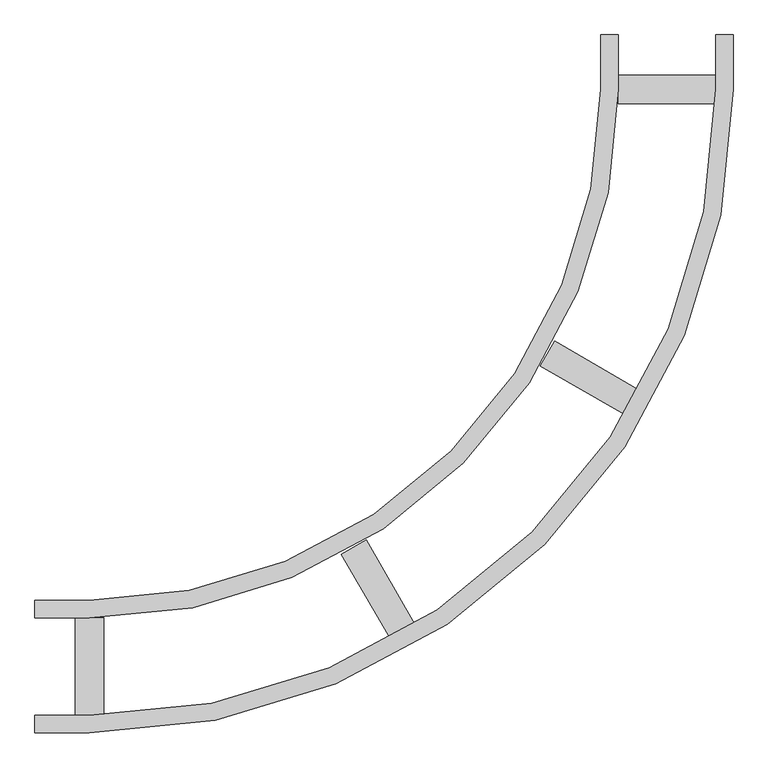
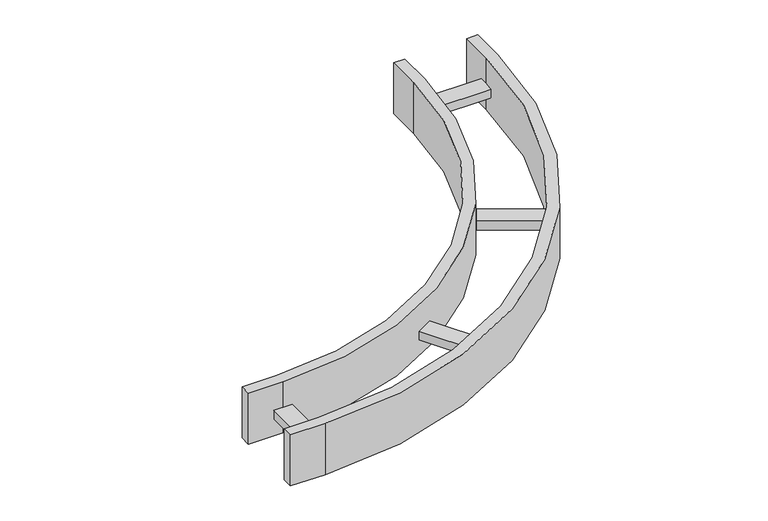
"""IFC4 building model written with IfcOpenShell, lengths in millimetres: cable carrier fitting geometry, Legrand_CableLadder_Swifts_Sapphire_FlatBend-13 : Hot Dip Galvanised (after manufacture)."""

import ifcopenshell
import ifcopenshell.guid

model = None  # the IFC model being written
_history = None  # IfcOwnerHistory: only IFC2X3 demands one
_inside = {}  # id of a spatial element -> (the spatial element, [elements in it])
_under = {}  # id of a project, library or spatial element -> (it, [spatial elements below it])
_declared = {}  # id of a project -> (the project, [libraries it declares])
_typed = {}  # id of a type object -> (the type object, [elements of that type])
_made_of = {}  # id of a material, layer set ... -> (it, [elements and type objects made of it])


def new_model(schema):
    """Start an empty IFC model of exactly this schema.

    Asked for "IFC4X3", IfcOpenShell would pick the latest addendum, in which some entities
    have other attributes; the version numbers below select the first issue.
    IFC2X3 requires an IfcOwnerHistory on every rooted entity: one is made here for all.
    """
    global model, _history
    if schema == "IFC4X3":
        model = ifcopenshell.file(schema_version=(4, 3, 0, 0))
    else:
        model = ifcopenshell.file(schema=schema)
    _inside.clear()
    _under.clear()
    _declared.clear()
    _typed.clear()
    _made_of.clear()
    _history = None
    if model.schema == "IFC2X3":
        org = make("IfcOrganization", Name="unknown")
        user = make(
            "IfcPersonAndOrganization",
            ThePerson=make("IfcPerson", FamilyName="unknown"),
            TheOrganization=org,
        )
        app = make(
            "IfcApplication",
            ApplicationDeveloper=org,
            Version="unknown",
            ApplicationFullName="unknown",
            ApplicationIdentifier="unknown",
        )
        _history = make(
            "IfcOwnerHistory",
            OwningUser=user,
            OwningApplication=app,
            ChangeAction="ADDED",
            CreationDate=0,
        )
    return model


def make(cls, **values):
    """One entity of the class cls with the attributes given. An attribute that is None is left unset."""
    return model.create_entity(
        cls, **{name: value for name, value in values.items() if value is not None}
    )


def rooted(cls, **values):
    """An entity with a GlobalId (a new one), such as an element, a storey or a relation."""
    return make(cls, GlobalId=ifcopenshell.guid.new(), OwnerHistory=_history, **values)


def si_unit(unit_type, name, prefix=None):
    """IfcSIUnit, for example si_unit("LENGTHUNIT", "METRE", prefix="MILLI")."""
    return make("IfcSIUnit", UnitType=unit_type, Prefix=prefix, Name=name)


def assignment(units):
    """IfcUnitAssignment: the units of a project."""
    return None if units is None else make("IfcUnitAssignment", Units=units)


def point(xyz):
    """IfcCartesianPoint."""
    return None if xyz is None else make("IfcCartesianPoint", Coordinates=xyz)


def direction(xyz):
    """IfcDirection."""
    return None if xyz is None else make("IfcDirection", DirectionRatios=xyz)


def frame(location, z_axis=None, x_axis=None):
    """IfcAxis2Placement3D, a coordinate frame: its origin and axes. An axis left out is left unset."""
    return make(
        "IfcAxis2Placement3D",
        Location=point(location),
        Axis=direction(z_axis),
        RefDirection=direction(x_axis),
    )


def frame_2d(location, x_axis=None):
    """IfcAxis2Placement2D, a coordinate frame in the plane: its origin and x axis."""
    return make(
        "IfcAxis2Placement2D", Location=point(location), RefDirection=direction(x_axis)
    )


def origin():
    """The frame at (0, 0, 0) with its axes left unset."""
    return frame((0.0, 0.0, 0.0))


def place(relative_to, where):
    """IfcLocalPlacement: puts the frame where relative to a parent placement (None: the world)."""
    return make(
        "IfcLocalPlacement", PlacementRelTo=relative_to, RelativePlacement=where
    )


def context(
    kind, dimensions, precision=None, world=None, true_north=None, identifier=None
):
    """IfcGeometricRepresentationContext, for example the 3D "Model" context."""
    return make(
        "IfcGeometricRepresentationContext",
        ContextIdentifier=identifier,
        ContextType=kind,
        CoordinateSpaceDimension=dimensions,
        Precision=precision,
        WorldCoordinateSystem=world,
        TrueNorth=true_north,
    )


def project(units=None, contexts=None):
    """IfcProject with its units and contexts."""
    return rooted(
        "IfcProject",
        Name="project",
        RepresentationContexts=contexts,
        UnitsInContext=assignment(units),
    )


def spatial(cls, under=None, at=None, **own):
    """A site, building, storey or space (cls), placed at a placement, below another one or the project."""
    s = rooted(cls, ObjectPlacement=at, **own)
    if under is not None:
        _under.setdefault(under.id(), (under, []))[1].append(s)
    return s


def polyline(points):
    """IfcPolyline through the points."""
    return make("IfcPolyline", Points=[point(p) for p in points])


def circle_curve(where, radius):
    """IfcCircle in the frame where."""
    return make("IfcCircle", Position=where, Radius=radius)


def trimmed(basis, trim1, trim2, sense, master):
    """IfcTrimmedCurve: the piece of a basis curve between two trims."""
    return make(
        "IfcTrimmedCurve",
        BasisCurve=basis,
        Trim1=trim1,
        Trim2=trim2,
        SenseAgreement=sense,
        MasterRepresentation=master,
    )


def segment(curve, same_sense, transition):
    """IfcCompositeCurveSegment."""
    return make(
        "IfcCompositeCurveSegment",
        Transition=transition,
        SameSense=same_sense,
        ParentCurve=curve,
    )


def composite_curve(segments, self_intersect=None):
    """IfcCompositeCurve: segments joined end to end."""
    return make("IfcCompositeCurve", Segments=segments, SelfIntersect=self_intersect)


def outline(outer, holes=None, kind="AREA"):
    """IfcArbitraryClosedProfileDef: a profile drawn as a closed curve; with holes, ...WithVoids."""
    if holes is None:
        return make("IfcArbitraryClosedProfileDef", ProfileType=kind, OuterCurve=outer)
    return make(
        "IfcArbitraryProfileDefWithVoids",
        ProfileType=kind,
        OuterCurve=outer,
        InnerCurves=holes,
    )


def extrude(swept, where, along, depth):
    """IfcExtrudedAreaSolid: the profile swept, set in the frame where, extruded along a direction by depth."""
    return make(
        "IfcExtrudedAreaSolid",
        SweptArea=swept,
        Position=where,
        ExtrudedDirection=direction(along),
        Depth=depth,
    )


def shape(context_of_items, identifier, shape_type, items):
    """IfcShapeRepresentation: the items that make up one representation, for example the "Body"."""
    return make(
        "IfcShapeRepresentation",
        ContextOfItems=context_of_items,
        RepresentationIdentifier=identifier,
        RepresentationType=shape_type,
        Items=items,
    )


def source(mapping_origin, context_of_items, identifier, shape_type, items):
    """IfcRepresentationMap: a shape defined once, which mapped items show again and again."""
    return make(
        "IfcRepresentationMap",
        MappingOrigin=mapping_origin,
        MappedRepresentation=shape(context_of_items, identifier, shape_type, items),
    )


def transform(
    local_origin,
    x_axis=None,
    y_axis=None,
    z_axis=None,
    scale=None,
    scale2=None,
    scale3=None,
    uniform=True,
):
    """IfcCartesianTransformationOperator3D, or its non-uniform kind. x_axis, y_axis, z_axis: its Axis1, 2, 3."""
    if uniform:
        return make(
            "IfcCartesianTransformationOperator3D",
            Axis1=direction(x_axis),
            Axis2=direction(y_axis),
            LocalOrigin=point(local_origin),
            Scale=scale,
            Axis3=direction(z_axis),
        )
    return make(
        "IfcCartesianTransformationOperator3DnonUniform",
        Axis1=direction(x_axis),
        Axis2=direction(y_axis),
        LocalOrigin=point(local_origin),
        Scale=scale,
        Axis3=direction(z_axis),
        Scale2=scale2,
        Scale3=scale3,
    )


def mapped(mapping_source, mapping_target):
    """IfcMappedItem: shows the shape of a source again, moved by a transform."""
    return make(
        "IfcMappedItem", MappingSource=mapping_source, MappingTarget=mapping_target
    )


def made_of(thing, what):
    """Note that an element or type object is made of a material, layer set ...; save() writes the relation."""
    if what is not None:
        _made_of.setdefault(what.id(), (what, []))[1].append(thing)
    return thing


def element(
    cls,
    number,
    at=None,
    inside=None,
    cuts=None,
    type_object=None,
    material=None,
    context=None,
    identifier="Body",
    shape_type=None,
    held_by="IfcProductDefinitionShape",
    body=None,
    shapes=None,
    **own,
):
    """One element of the class cls, such as IfcWall. Its Tag is "e" and its number.

    at: its placement. inside: the storey or other place that contains it. cuts: it is an
    opening in that element (IfcRelVoidsElement). A single representation is given by context,
    identifier, shape_type and body (its items); several are given by shapes. held_by: the class
    of the entity that holds the representations. save() writes the other relations.
    """
    e = rooted(cls, Tag="e%d" % number, ObjectPlacement=at, **own)
    if body is not None:
        shapes = [shape(context, identifier, shape_type, body)]
    if shapes is not None:
        e.Representation = make(held_by, Representations=shapes)
    if inside is not None:
        _inside.setdefault(inside.id(), (inside, []))[1].append(e)
    if cuts is not None:
        rooted(
            "IfcRelVoidsElement", RelatingBuildingElement=cuts, RelatedOpeningElement=e
        )
    if type_object is not None:
        _typed.setdefault(type_object.id(), (type_object, []))[1].append(e)
    return made_of(e, material)


def aggregate(whole, parts):
    """IfcRelAggregates: a whole, such as a stair, and the parts it consists of."""
    return rooted("IfcRelAggregates", RelatingObject=whole, RelatedObjects=parts)


def save(model, path):
    """Write the relations noted so far, then the file.

    IfcRelAggregates (storeys below a building ...), IfcRelContainedInSpatialStructure (elements
    in a storey), IfcRelDefinesByType, IfcRelAssociatesMaterial and IfcRelDeclares: one each for
    every whole, place, type object, material and project.
    """
    for whole, parts in _under.values():
        aggregate(whole, parts)
    for where, things in _inside.values():
        rooted(
            "IfcRelContainedInSpatialStructure",
            RelatedElements=things,
            RelatingStructure=where,
        )
    for kind, things in _typed.values():
        rooted("IfcRelDefinesByType", RelatedObjects=things, RelatingType=kind)
    for what, things in _made_of.values():
        rooted("IfcRelAssociatesMaterial", RelatedObjects=things, RelatingMaterial=what)
    for by, libraries in _declared.values():
        rooted("IfcRelDeclares", RelatingContext=by, RelatedDefinitions=libraries)
    model.write(path)


def cable_carrier_fitting_d1dd5aaa(model_context):
    return source(origin(), model_context, "Body", "SweptSolid", [
        extrude(outline(polyline([(-405.9365335, 41.0556666), (-477.4365335, 164.8972994), (-441.0634665, 185.8972994), (-369.5634665, 62.0556666), (-405.9365335, 41.0556666)])), frame((0.0, 0.0, -21.0), z_axis=(0.0, 0.0, 1.0), x_axis=(1.0, 0.0, 0.0)), (0.0, 0.0, 1.0), 21.0),
        extrude(outline(polyline([(-62.0556666, 369.5634665), (-185.8972994, 441.0634665), (-164.8972994, 477.4365335), (-41.0556666, 405.9365335), (-62.0556666, 369.5634665)])), frame((0.0, 0.0, -21.0), z_axis=(0.0, 0.0, 1.0), x_axis=(1.0, 0.0, 0.0)), (0.0, 0.0, 1.0), 21.0),
        extrude(outline(polyline([(-868.0, -71.5), (-868.0, 71.5), (-826.0, 71.5), (-826.0, -71.5), (-868.0, -71.5)])), frame((0.0, 0.0, -21.0), z_axis=(0.0, 0.0, 1.0), x_axis=(1.0, 0.0, 0.0)), (0.0, 0.0, 1.0), 21.0),
        extrude(outline(polyline([(71.5, 826.0), (-71.5, 826.0), (-71.5, 868.0), (71.5, 868.0), (71.5, 826.0)])), frame((0.0, 0.0, -21.0), z_axis=(0.0, 0.0, 1.0), x_axis=(1.0, 0.0, 0.0)), (0.0, 0.0, 1.0), 21.0),
        extrude(outline(composite_curve([segment(polyline([(-927.0, -97.0), (-927.0, -71.5), (-847.0, -71.5)]), True, "CONTINUOUS"), segment(trimmed(circle_curve(frame_2d((-847.0, 847.0)), 918.5), [point((-847.0, -71.5))], [point((71.5, 847.0))], True, "CARTESIAN"), True, "CONTINUOUS"), segment(polyline([(71.5, 847.0), (71.5, 927.0), (97.0, 927.0), (97.0, 847.0)]), True, "CONTINUOUS"), segment(trimmed(circle_curve(frame_2d((-847.0, 847.0)), 944.0), [point((97.0, 847.0))], [point((-847.0, -97.0))], False, "CARTESIAN"), True, "CONTINUOUS"), segment(polyline([(-847.0, -97.0), (-927.0, -97.0)]), True, "CONTINUOUS")], self_intersect=False)), frame((0.0, 0.0, -62.5), z_axis=(0.0, 0.0, 1.0), x_axis=(1.0, 0.0, 0.0)), (0.0, 0.0, 1.0), 125.0),
        extrude(outline(composite_curve([segment(polyline([(-927.0, 71.5), (-927.0, 97.0), (-847.0, 97.0)]), True, "CONTINUOUS"), segment(trimmed(circle_curve(frame_2d((-847.0, 847.0)), 750.0), [point((-847.0, 97.0))], [point((-97.0, 847.0))], True, "CARTESIAN"), True, "CONTINUOUS"), segment(polyline([(-97.0, 847.0), (-97.0, 927.0), (-71.5, 927.0), (-71.5, 847.0)]), True, "CONTINUOUS"), segment(trimmed(circle_curve(frame_2d((-847.0, 847.0)), 775.5), [point((-71.5, 847.0))], [point((-847.0, 71.5))], False, "CARTESIAN"), True, "CONTINUOUS"), segment(polyline([(-847.0, 71.5), (-927.0, 71.5)]), True, "CONTINUOUS")], self_intersect=False)), frame((0.0, 0.0, -62.5), z_axis=(0.0, 0.0, 1.0), x_axis=(1.0, 0.0, 0.0)), (0.0, 0.0, 1.0), 125.0),
    ])


if __name__ == "__main__":
    model = new_model("IFC4")
    model_context = context("Model", 3, world=origin())
    ifc_project = project(units=[si_unit("LENGTHUNIT", "METRE", prefix="MILLI")], contexts=[model_context])
    site = spatial("IfcSite", under=ifc_project)
    building = spatial("IfcBuilding", under=site)
    placement = place(None, origin())
    cable_carrier_fitting_shape = cable_carrier_fitting_d1dd5aaa(model_context)
    element("IfcCableCarrierFitting", 1, ObjectType="Legrand_CableLadder_Swifts_Sapphire_FlatBend-13 : Hot Dip Galvanised (after manufacture)", at=placement, inside=building, context=model_context, shape_type="MappedRepresentation", body=[
        mapped(cable_carrier_fitting_shape, transform((0.0, 0.0, 0.0), x_axis=(1.0, 0.0, 0.0), y_axis=(0.0, 1.0, 0.0), z_axis=(0.0, 0.0, 1.0))),
    ])
    save(model, "model.ifc")
